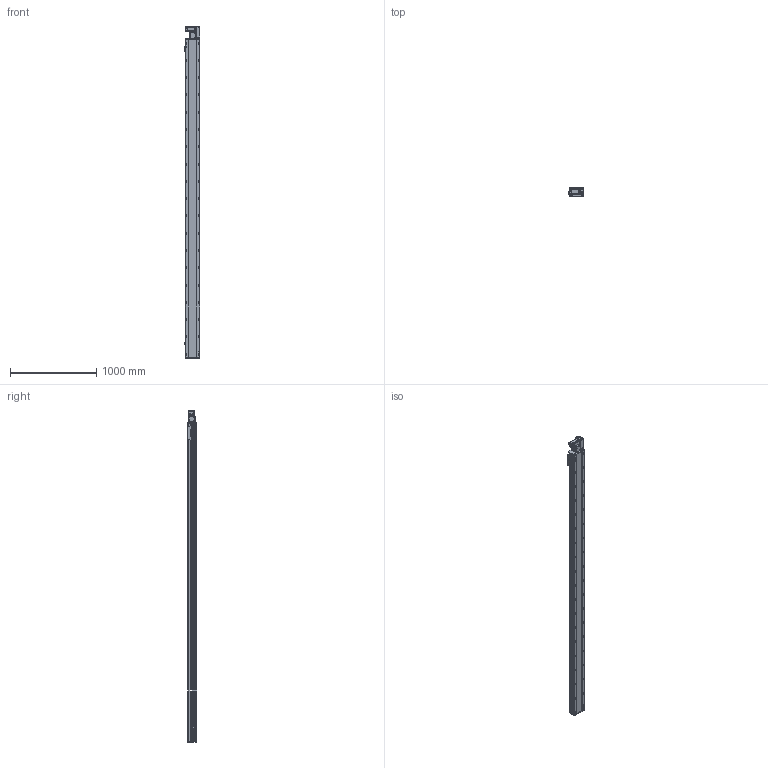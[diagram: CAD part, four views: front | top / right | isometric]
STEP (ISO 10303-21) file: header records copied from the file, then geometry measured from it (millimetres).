
FILE_DESCRIPTION (( 'STEP AP214' ), '1' );
FILE_NAME ('RTB17S-XX-3400-R-M40-C4.STEP', '2025-12-11T08:01:04', ( '' ), ( '' ), 'SwSTEP 2.0', 'SolidWorks 2018', '' );
FILE_SCHEMA (( 'AUTOMOTIVE_DESIGN' ));
Length unit declared in the file: millimetre
Products named in the file (14): RTB14-L-018P^RTB17S-R-々湍釱蚾饜-400W_RTB17S-XX-XX-R-M40-C4; RTB17-R-011菁釱^RTB17S-XX-XX-R-M40-C4; RTB17S-L-001耜醱啣^RTB17S-XX-XX-R-M40-C4; RTH13-BL-012覜茼え俋离^RTB17S-XX-XX-R-M40-C4; RTB17S-L-014-T20--々湍釱^RTB17S-R-々湍釱蚾饜-400W_RTB17S-XX-XX-R-M40-C4; RTB14-L-005P--轴承塑胶压盖^RTB17S-R-皮带座装配-400W_RTB17S-XX-XX-R-M40-C4; OMRON EE-SX672 传感器^RTB17S-XX-XX-R-M40-C4; 400W侜督萇儂^RTB17S-XX-XX-R-M40-C4; RTB17S-L-004佪裝蹟譫蟀諉釱^RTB17S-XX-XX-R-M40-C4; RTB17S-L-007奻裔^RTB17S-XX-XX-R-M40-C4; RTB14-L-008-M20--萇儂啣^RTB17S-R-々湍釱蚾饜-400W_RTB17S-XX-XX-R-M40-C4; RTB17S-XX-3400-R-M40-C4; RTB14-L-017P^RTB17S-R-々湍釱蚾饜-400W_RTB17S-XX-XX-R-M40-C4; RTB17S-R-々湍釱蚾饜-400W^RTB17S-XX-XX-R-M40-C4
Assembly tree (16 placements, depth 3):
  RTB17S-XX-3400-R-M40-C4
    RTB17-R-011菁釱^RTB17S-XX-XX-R-M40-C4
    RTB17S-L-007奻裔^RTB17S-XX-XX-R-M40-C4
    OMRON EE-SX672 传感器^RTB17S-XX-XX-R-M40-C4  x3
    RTB17S-L-001耜醱啣^RTB17S-XX-XX-R-M40-C4
    400W侜督萇儂^RTB17S-XX-XX-R-M40-C4
    RTB17S-L-004佪裝蹟譫蟀諉釱^RTB17S-XX-XX-R-M40-C4
    RTH13-BL-012覜茼え俋离^RTB17S-XX-XX-R-M40-C4
    RTB17S-R-々湍釱蚾饜-400W^RTB17S-XX-XX-R-M40-C4
      RTB17S-L-014-T20--々湍釱^RTB17S-R-々湍釱蚾饜-400W_RTB17S-XX-XX-R-M40-C4
      RTB14-L-005P--轴承塑胶压盖^RTB17S-R-皮带座装配-400W_RTB17S-XX-XX-R-M40-C4
      RTB14-L-008-M20--萇儂啣^RTB17S-R-々湍釱蚾饜-400W_RTB17S-XX-XX-R-M40-C4
      RTB14-L-017P^RTB17S-R-々湍釱蚾饜-400W_RTB17S-XX-XX-R-M40-C4  x2
      RTB14-L-018P^RTB17S-R-々湍釱蚾饜-400W_RTB17S-XX-XX-R-M40-C4
Bounding box: 183.5 x 108 x 3841 mm (x, y, z)
Volume: 31948757.7 mm3; surface area: 3631464.8 mm2
Topology: 15 solids, 15 shells, 2397 faces, 6735 edges, 4401 vertices
Faces by surface type: plane 1092, cylinder 857, bspline 301, cone 139, torus 8
Entity records: 71849 total; most frequent: CARTESIAN_POINT 20540, ORIENTED_EDGE 10314, DIRECTION 9476, EDGE_CURVE 5157, VERTEX_POINT 3389, AXIS2_PLACEMENT_3D 3319, LINE 2838, VECTOR 2838
